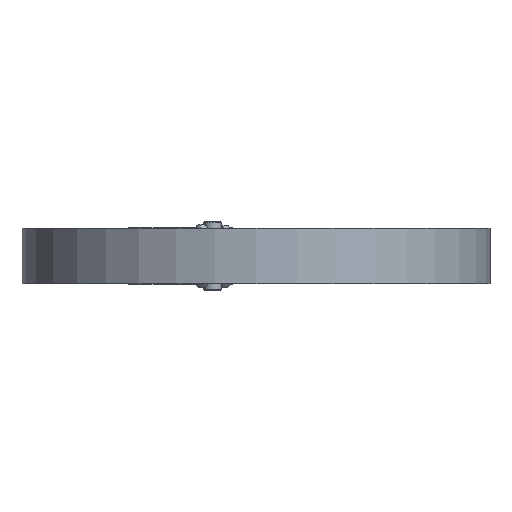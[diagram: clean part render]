
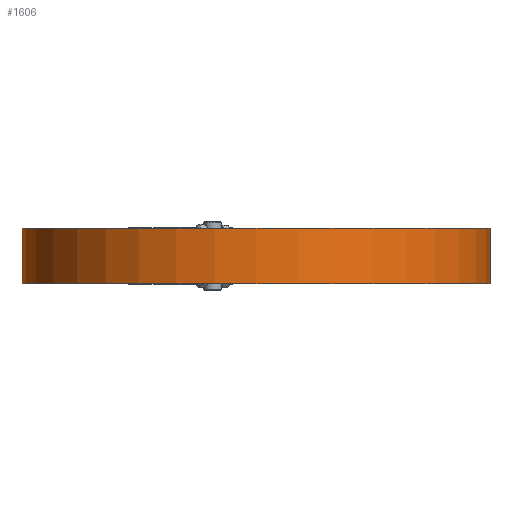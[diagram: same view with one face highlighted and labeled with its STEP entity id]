
A CAD part, front view. The second image highlights one B-rep face of the part: STEP entity #1606.
In plain terms, the highlighted cylindrical face has radius 126.5 mm (diameter 253 mm), a partial arc.
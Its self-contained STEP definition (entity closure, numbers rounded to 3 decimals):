
#63 = EDGE_CURVE ( 'NONE', #23585, #16084, #8703, .T. ) ;
#1012 = ORIENTED_EDGE ( 'NONE', *, *, #6002, .F. ) ;
#1594 = DIRECTION ( 'NONE',  ( 1., 0., 0. ) ) ;
#1606 = ADVANCED_FACE ( 'NONE', ( #5966 ), #15800, .T. ) ;
#2962 = AXIS2_PLACEMENT_3D ( 'NONE', #13836, #23721, #1594 ) ;
#3548 = DIRECTION ( 'NONE',  ( 0., 0., -1. ) ) ;
#3577 = DIRECTION ( 'NONE',  ( 0., 0., -1. ) ) ;
#3715 = DIRECTION ( 'NONE',  ( 0., 0., 1. ) ) ;
#4328 = CARTESIAN_POINT ( 'NONE',  ( -126.5, 0., 15. ) ) ;
#5208 = VERTEX_POINT ( 'NONE', #18619 ) ;
#5514 = CARTESIAN_POINT ( 'NONE',  ( 126.5, 0., -15. ) ) ;
#5966 = FACE_OUTER_BOUND ( 'NONE', #29016, .T. ) ;
#6002 = EDGE_CURVE ( 'NONE', #5208, #29822, #12873, .T. ) ;
#7340 = EDGE_CURVE ( 'NONE', #5208, #23585, #26453, .T. ) ;
#8703 = CIRCLE ( 'NONE', #2962, 126.5 ) ;
#9811 = VECTOR ( 'NONE', #14143, 1000. ) ;
#10207 = ORIENTED_EDGE ( 'NONE', *, *, #28876, .F. ) ;
#12873 = CIRCLE ( 'NONE', #30960, 126.5 ) ;
#13363 = DIRECTION ( 'NONE',  ( -1., 0., 0. ) ) ;
#13528 = DIRECTION ( 'NONE',  ( 1., 0., 0. ) ) ;
#13580 = VECTOR ( 'NONE', #3577, 1000. ) ;
#13836 = CARTESIAN_POINT ( 'NONE',  ( 0., 0., -15. ) ) ;
#14143 = DIRECTION ( 'NONE',  ( 0., 0., -1. ) ) ;
#15800 = CYLINDRICAL_SURFACE ( 'NONE', #20022, 126.5 ) ;
#15829 = LINE ( 'NONE', #25714, #13580 ) ;
#16084 = VERTEX_POINT ( 'NONE', #5514 ) ;
#16150 = ORIENTED_EDGE ( 'NONE', *, *, #7340, .T. ) ;
#18619 = CARTESIAN_POINT ( 'NONE',  ( -126.5, 0., 15. ) ) ;
#20022 = AXIS2_PLACEMENT_3D ( 'NONE', #25684, #3548, #13363 ) ;
#23585 = VERTEX_POINT ( 'NONE', #28093 ) ;
#23721 = DIRECTION ( 'NONE',  ( 0., 0., 1. ) ) ;
#23909 = ORIENTED_EDGE ( 'NONE', *, *, #63, .T. ) ;
#24914 = CARTESIAN_POINT ( 'NONE',  ( 126.5, 0., 15. ) ) ;
#25684 = CARTESIAN_POINT ( 'NONE',  ( 0., 0., 15. ) ) ;
#25714 = CARTESIAN_POINT ( 'NONE',  ( 126.5, 0., 15. ) ) ;
#25837 = CARTESIAN_POINT ( 'NONE',  ( 0., 0., 15. ) ) ;
#26453 = LINE ( 'NONE', #4328, #9811 ) ;
#28093 = CARTESIAN_POINT ( 'NONE',  ( -126.5, 0., -15. ) ) ;
#28876 = EDGE_CURVE ( 'NONE', #29822, #16084, #15829, .T. ) ;
#29016 = EDGE_LOOP ( 'NONE', ( #10207, #1012, #16150, #23909 ) ) ;
#29822 = VERTEX_POINT ( 'NONE', #24914 ) ;
#30960 = AXIS2_PLACEMENT_3D ( 'NONE', #25837, #3715, #13528 ) ;
